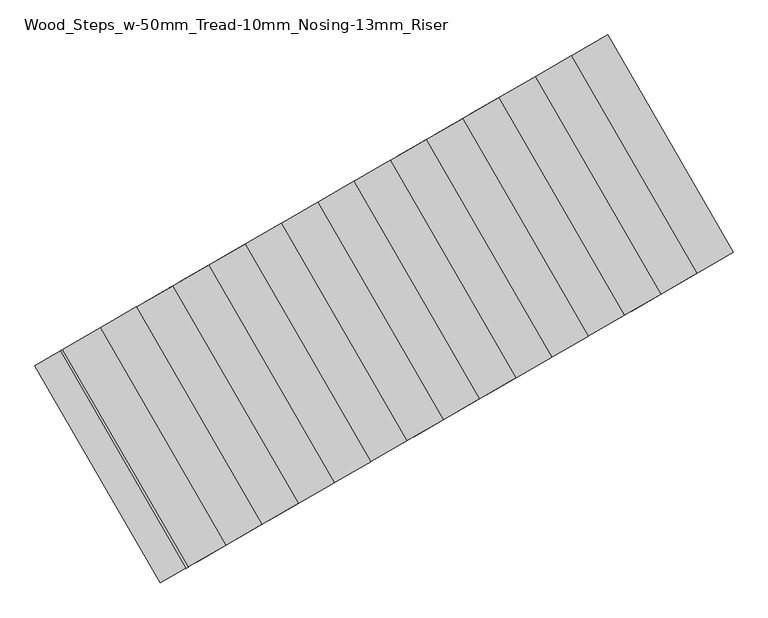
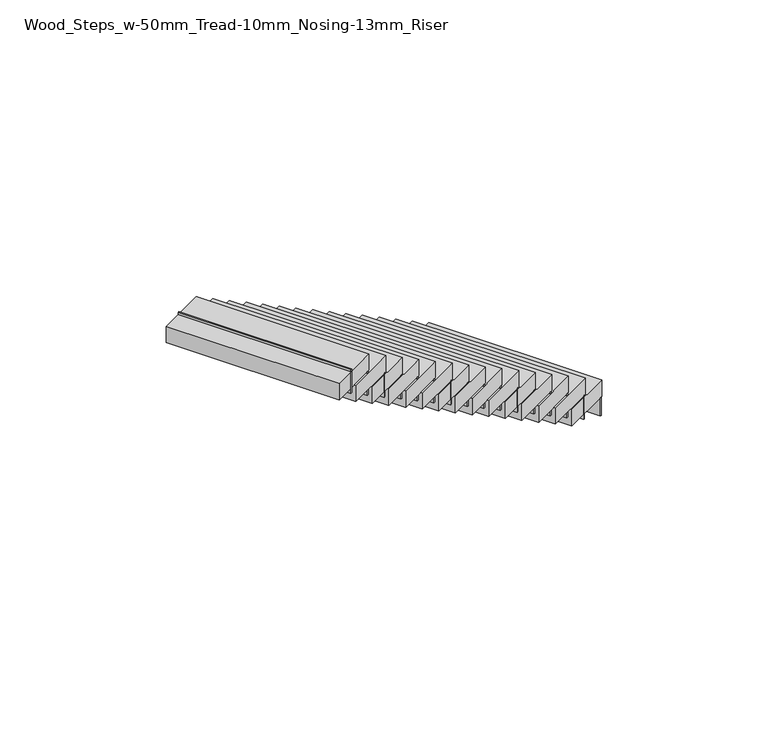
"""IFC4 building model written with IfcOpenShell, lengths in millimetres: stair flight geometry, Wood_Steps_w-50mm_Tread-10mm_Nosing-13mm_Riser."""

from ifc_helpers import new_model, si_unit, frame, origin, place, context, project, spatial, polyline, outline, extrude, source, transform, mapped, element, save


def wood_steps_w_50mm_tread_10mm_nosing_13mm_riser_072bda0e(model_context):
    return source(origin(), model_context, "Body", "SweptSolid", [
        extrude(outline(polyline([(8200.6976747, 26447.3129404), (8590.4091064, 26672.3129404), (9340.4091064, 25373.2748348), (8950.6976747, 25148.2748348), (8200.6976747, 26447.3129404)])), frame((0.0, 0.0, 8968.75), z_axis=(0.0, 0.0, 1.0), x_axis=(1.0, 0.0, 0.0)), (0.0, 0.0, 1.0), 150.0),
        extrude(outline(polyline([(8570.9235348, 26661.0629404), (8581.7488523, 26667.3129404), (9331.7488523, 25368.2748348), (9320.9235348, 25362.0248348), (8570.9235348, 26661.0629404)])), frame((0.0, 0.0, 8800.0), z_axis=(0.0, 0.0, 1.0), x_axis=(1.0, 0.0, 0.0)), (0.0, 0.0, 1.0), 168.75),
        extrude(outline(polyline([(8354.4171838, 26536.0629404), (8365.2425014, 26542.3129404), (9115.2425014, 25243.2748348), (9104.4171838, 25237.0248348), (8354.4171838, 26536.0629404)])), frame((0.0, 0.0, 8918.75), z_axis=(0.0, 0.0, 1.0), x_axis=(1.0, 0.0, 0.0)), (0.0, 0.0, 1.0), 218.75),
        extrude(outline(polyline([(7984.1913237, 26322.3129404), (8373.9027554, 26547.3129404), (9123.9027554, 25248.2748348), (8734.1913237, 25023.2748348), (7984.1913237, 26322.3129404)])), frame((0.0, 0.0, 9137.5), z_axis=(0.0, 0.0, 1.0), x_axis=(1.0, 0.0, 0.0)), (0.0, 0.0, 1.0), 150.0),
        extrude(outline(polyline([(8137.9108329, 26411.0629404), (8148.7361504, 26417.3129404), (8898.7361504, 25118.2748348), (8887.9108329, 25112.0248348), (8137.9108329, 26411.0629404)])), frame((0.0, 0.0, 9087.5), z_axis=(0.0, 0.0, 1.0), x_axis=(1.0, 0.0, 0.0)), (0.0, 0.0, 1.0), 218.75),
        extrude(outline(polyline([(7767.6849728, 26197.3129404), (8157.3964045, 26422.3129404), (8907.3964045, 25123.2748348), (8517.6849728, 24898.2748348), (7767.6849728, 26197.3129404)])), frame((0.0, 0.0, 9306.25), z_axis=(0.0, 0.0, 1.0), x_axis=(1.0, 0.0, 0.0)), (0.0, 0.0, 1.0), 150.0),
        extrude(outline(polyline([(7921.4044819, 26286.0629404), (7932.2297995, 26292.3129404), (8682.2297995, 24993.2748348), (8671.4044819, 24987.0248348), (7921.4044819, 26286.0629404)])), frame((0.0, 0.0, 9256.25), z_axis=(0.0, 0.0, 1.0), x_axis=(1.0, 0.0, 0.0)), (0.0, 0.0, 1.0), 218.75),
        extrude(outline(polyline([(7551.1786218, 26072.3129404), (7940.8900535, 26297.3129404), (8690.8900535, 24998.2748348), (8301.1786218, 24773.2748348), (7551.1786218, 26072.3129404)])), frame((0.0, 0.0, 9475.0), z_axis=(0.0, 0.0, 1.0), x_axis=(1.0, 0.0, 0.0)), (0.0, 0.0, 1.0), 150.0),
        extrude(outline(polyline([(7704.898131, 26161.0629404), (7715.7234485, 26167.3129404), (8465.7234485, 24868.2748348), (8454.898131, 24862.0248348), (7704.898131, 26161.0629404)])), frame((0.0, 0.0, 9425.0), z_axis=(0.0, 0.0, 1.0), x_axis=(1.0, 0.0, 0.0)), (0.0, 0.0, 1.0), 218.75),
        extrude(outline(polyline([(7334.6722709, 25947.3129404), (7724.3837026, 26172.3129404), (8474.3837026, 24873.2748348), (8084.6722709, 24648.2748348), (7334.6722709, 25947.3129404)])), frame((0.0, 0.0, 9643.75), z_axis=(0.0, 0.0, 1.0), x_axis=(1.0, 0.0, 0.0)), (0.0, 0.0, 1.0), 150.0),
        extrude(outline(polyline([(7488.39178, 26036.0629404), (7499.2170976, 26042.3129404), (8249.2170976, 24743.2748348), (8238.39178, 24737.0248348), (7488.39178, 26036.0629404)])), frame((0.0, 0.0, 9593.75), z_axis=(0.0, 0.0, 1.0), x_axis=(1.0, 0.0, 0.0)), (0.0, 0.0, 1.0), 218.75),
        extrude(outline(polyline([(7118.1659199, 25822.3129404), (7507.8773516, 26047.3129404), (8257.8773516, 24748.2748348), (7868.1659199, 24523.2748348), (7118.1659199, 25822.3129404)])), frame((0.0, 0.0, 9812.5), z_axis=(0.0, 0.0, 1.0), x_axis=(1.0, 0.0, 0.0)), (0.0, 0.0, 1.0), 150.0),
        extrude(outline(polyline([(7271.8854291, 25911.0629404), (7282.7107467, 25917.3129404), (8032.7107467, 24618.2748348), (8021.8854291, 24612.0248348), (7271.8854291, 25911.0629404)])), frame((0.0, 0.0, 9762.5), z_axis=(0.0, 0.0, 1.0), x_axis=(1.0, 0.0, 0.0)), (0.0, 0.0, 1.0), 218.75),
        extrude(outline(polyline([(6901.659569, 25697.3129404), (7291.3710007, 25922.3129404), (8041.3710007, 24623.2748348), (7651.659569, 24398.2748348), (6901.659569, 25697.3129404)])), frame((0.0, 0.0, 9981.25), z_axis=(0.0, 0.0, 1.0), x_axis=(1.0, 0.0, 0.0)), (0.0, 0.0, 1.0), 150.0),
        extrude(outline(polyline([(7055.3790782, 25786.0629404), (7066.2043957, 25792.3129404), (7816.2043957, 24493.2748348), (7805.3790782, 24487.0248348), (7055.3790782, 25786.0629404)])), frame((0.0, 0.0, 9931.25), z_axis=(0.0, 0.0, 1.0), x_axis=(1.0, 0.0, 0.0)), (0.0, 0.0, 1.0), 218.75),
        extrude(outline(polyline([(6685.153218, 25572.3129404), (7074.8646497, 25797.3129404), (7824.8646497, 24498.2748348), (7435.153218, 24273.2748348), (6685.153218, 25572.3129404)])), frame((0.0, 0.0, 10150.0), z_axis=(0.0, 0.0, 1.0), x_axis=(1.0, 0.0, 0.0)), (0.0, 0.0, 1.0), 150.0),
        extrude(outline(polyline([(6838.8727272, 25661.0629404), (6849.6980448, 25667.3129404), (7599.6980448, 24368.2748348), (7588.8727272, 24362.0248348), (6838.8727272, 25661.0629404)])), frame((0.0, 0.0, 10100.0), z_axis=(0.0, 0.0, 1.0), x_axis=(1.0, 0.0, 0.0)), (0.0, 0.0, 1.0), 218.75),
        extrude(outline(polyline([(6468.6468671, 25447.3129404), (6858.3582988, 25672.3129404), (7608.3582988, 24373.2748348), (7218.6468671, 24148.2748348), (6468.6468671, 25447.3129404)])), frame((0.0, 0.0, 10318.75), z_axis=(0.0, 0.0, 1.0), x_axis=(1.0, 0.0, 0.0)), (0.0, 0.0, 1.0), 150.0),
        extrude(outline(polyline([(6622.3663763, 25536.0629404), (6633.1916938, 25542.3129404), (7383.1916938, 24243.2748348), (7372.3663763, 24237.0248348), (6622.3663763, 25536.0629404)])), frame((0.0, 0.0, 10268.75), z_axis=(0.0, 0.0, 1.0), x_axis=(1.0, 0.0, 0.0)), (0.0, 0.0, 1.0), 218.75),
        extrude(outline(polyline([(6252.1405161, 25322.3129404), (6641.8519479, 25547.3129404), (7391.8519479, 24248.2748348), (7002.1405161, 24023.2748348), (6252.1405161, 25322.3129404)])), frame((0.0, 0.0, 10487.5), z_axis=(0.0, 0.0, 1.0), x_axis=(1.0, 0.0, 0.0)), (0.0, 0.0, 1.0), 150.0),
        extrude(outline(polyline([(6405.8600253, 25411.0629404), (6416.6853429, 25417.3129404), (7166.6853429, 24118.2748348), (7155.8600253, 24112.0248348), (6405.8600253, 25411.0629404)])), frame((0.0, 0.0, 10437.5), z_axis=(0.0, 0.0, 1.0), x_axis=(1.0, 0.0, 0.0)), (0.0, 0.0, 1.0), 218.75),
        extrude(outline(polyline([(6035.6341652, 25197.3129404), (6425.3455969, 25422.3129404), (7175.3455969, 24123.2748348), (6785.6341652, 23898.2748348), (6035.6341652, 25197.3129404)])), frame((0.0, 0.0, 10656.25), z_axis=(0.0, 0.0, 1.0), x_axis=(1.0, 0.0, 0.0)), (0.0, 0.0, 1.0), 150.0),
        extrude(outline(polyline([(6189.3536744, 25286.0629404), (6200.1789919, 25292.3129404), (6950.1789919, 23993.2748348), (6939.3536744, 23987.0248348), (6189.3536744, 25286.0629404)])), frame((0.0, 0.0, 10606.25), z_axis=(0.0, 0.0, 1.0), x_axis=(1.0, 0.0, 0.0)), (0.0, 0.0, 1.0), 218.75),
        extrude(outline(polyline([(5819.1278143, 25072.3129404), (6208.839246, 25297.3129404), (6958.839246, 23998.2748348), (6569.1278143, 23773.2748348), (5819.1278143, 25072.3129404)])), frame((0.0, 0.0, 10825.0), z_axis=(0.0, 0.0, 1.0), x_axis=(1.0, 0.0, 0.0)), (0.0, 0.0, 1.0), 150.0),
        extrude(outline(polyline([(5972.8473234, 25161.0629404), (5983.672641, 25167.3129404), (6733.672641, 23868.2748348), (6722.8473234, 23862.0248348), (5972.8473234, 25161.0629404)])), frame((0.0, 0.0, 10775.0), z_axis=(0.0, 0.0, 1.0), x_axis=(1.0, 0.0, 0.0)), (0.0, 0.0, 1.0), 218.75),
        extrude(outline(polyline([(5602.6214633, 24947.3129404), (5992.332895, 25172.3129404), (6742.332895, 23873.2748348), (6352.6214633, 23648.2748348), (5602.6214633, 24947.3129404)])), frame((0.0, 0.0, 10993.75), z_axis=(0.0, 0.0, 1.0), x_axis=(1.0, 0.0, 0.0)), (0.0, 0.0, 1.0), 150.0),
        extrude(outline(polyline([(5756.3409725, 25036.0629404), (5767.16629, 25042.3129404), (6517.16629, 23743.2748348), (6506.3409725, 23737.0248348), (5756.3409725, 25036.0629404)])), frame((0.0, 0.0, 10943.75), z_axis=(0.0, 0.0, 1.0), x_axis=(1.0, 0.0, 0.0)), (0.0, 0.0, 1.0), 218.75),
        extrude(outline(polyline([(5386.1151124, 24822.3129404), (5775.8265441, 25047.3129404), (6525.8265441, 23748.2748348), (6136.1151124, 23523.2748348), (5386.1151124, 24822.3129404)])), frame((0.0, 0.0, 11162.5), z_axis=(0.0, 0.0, 1.0), x_axis=(1.0, 0.0, 0.0)), (0.0, 0.0, 1.0), 150.0),
        extrude(outline(polyline([(5539.8346215, 24911.0629404), (5550.6599391, 24917.3129404), (6300.6599391, 23618.2748348), (6289.8346215, 23612.0248348), (5539.8346215, 24911.0629404)])), frame((0.0, 0.0, 11112.5), z_axis=(0.0, 0.0, 1.0), x_axis=(1.0, 0.0, 0.0)), (0.0, 0.0, 1.0), 218.75),
        extrude(outline(polyline([(5323.3282706, 24786.0629404), (5334.1535881, 24792.3129404), (6084.1535881, 23493.2748348), (6073.3282706, 23487.0248348), (5323.3282706, 24786.0629404)])), frame((0.0, 0.0, 11281.25), z_axis=(0.0, 0.0, 1.0), x_axis=(1.0, 0.0, 0.0)), (0.0, 0.0, 1.0), 218.75),
        extrude(outline(polyline([(5169.6087614, 24697.3129404), (5559.3201931, 24922.3129404), (6309.3201931, 23623.2748348), (5919.6087614, 23398.2748348), (5169.6087614, 24697.3129404)])), frame((0.0, 0.0, 11331.25), z_axis=(0.0, 0.0, 1.0), x_axis=(1.0, 0.0, 0.0)), (0.0, 0.0, 1.0), 150.0),
    ])


if __name__ == "__main__":
    model = new_model("IFC4")
    model_context = context("Model", 3, world=origin())
    ifc_project = project(units=[si_unit("LENGTHUNIT", "METRE", prefix="MILLI")], contexts=[model_context])
    site = spatial("IfcSite", under=ifc_project)
    building = spatial("IfcBuilding", under=site)
    placement = place(None, origin())
    wood_steps_w_50mm_tread_10mm_nosing_13mm_riser_shape = wood_steps_w_50mm_tread_10mm_nosing_13mm_riser_072bda0e(model_context)
    element("IfcStairFlight", 1, ObjectType="Wood_Steps_w-50mm_Tread-10mm_Nosing-13mm_Riser", at=placement, inside=building, context=model_context, shape_type="MappedRepresentation", body=[
        mapped(wood_steps_w_50mm_tread_10mm_nosing_13mm_riser_shape, transform((0.0, 0.0, 0.0), x_axis=(1.0, 0.0, 0.0), y_axis=(0.0, 1.0, 0.0), z_axis=(0.0, 0.0, 1.0))),
    ])
    save(model, "model.ifc")
